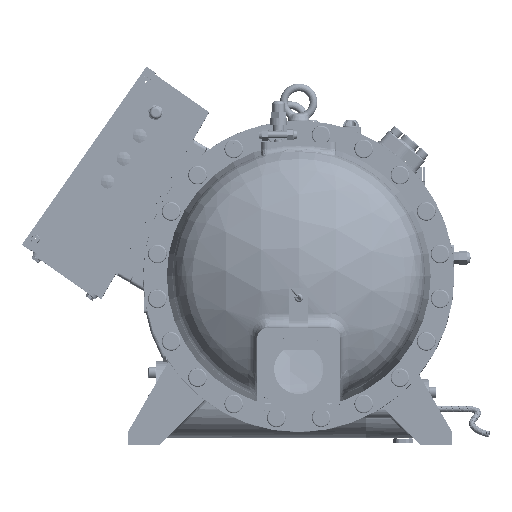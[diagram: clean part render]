
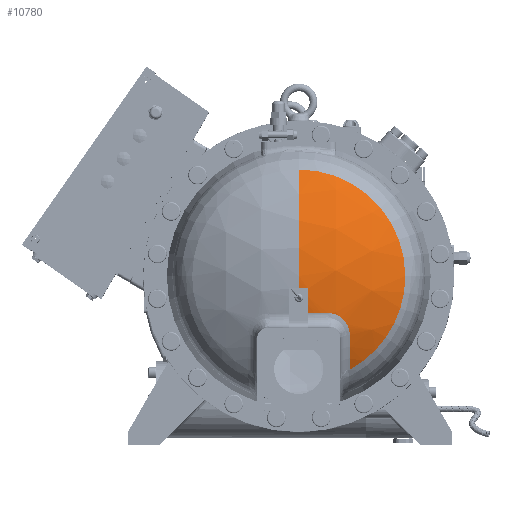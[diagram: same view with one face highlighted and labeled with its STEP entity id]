
A CAD part, top view. The second image highlights one B-rep face of the part: STEP entity #10780.
In plain terms, the highlighted spherical face has radius 319 mm.
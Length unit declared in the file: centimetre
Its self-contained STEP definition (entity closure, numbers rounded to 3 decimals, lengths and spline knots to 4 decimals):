
#948 = DIRECTION ( 'NONE',  ( 0., 1., 0. ) ) ;
#973 = DIRECTION ( 'NONE',  ( 1., 0., 0. ) ) ;
#1463 = CARTESIAN_POINT ( 'NONE',  ( 1.4, 1.4, 5.25 ) ) ;
#1548 = CARTESIAN_POINT ( 'NONE',  ( 9.5867, -13.6402, 32.1643 ) ) ;
#4963 = DIRECTION ( 'NONE',  ( 0., 0., 1. ) ) ;
#7860 = CIRCLE ( 'NONE', #55956, 30.8316 ) ;
#8826 = CARTESIAN_POINT ( 'NONE',  ( 7.9558, -5.0799, 35.7894 ) ) ;
#8845 = AXIS2_PLACEMENT_3D ( 'NONE', #102940, #104107, #102797 ) ;
#9284 = CARTESIAN_POINT ( 'NONE',  ( 9.4043, -6.9358, 34.9831 ) ) ;
#10000 = ORIENTED_EDGE ( 'NONE', *, *, #14995, .T. ) ;
#10780 = ADVANCED_FACE ( 'NONE', ( #66243 ), #88763, .T. ) ;
#11768 = DIRECTION ( 'NONE',  ( -1., 0., 0. ) ) ;
#11947 = CARTESIAN_POINT ( 'NONE',  ( 2.9, -0.6, 37.0519 ) ) ;
#14995 = EDGE_CURVE ( 'NONE', #71493, #64363, #62162, .T. ) ;
#18592 = AXIS2_PLACEMENT_3D ( 'NONE', #118817, #52209, #129977 ) ;
#19979 = CARTESIAN_POINT ( 'NONE',  ( 8.4162, -5.422, 35.6128 ) ) ;
#20472 = CARTESIAN_POINT ( 'NONE',  ( 9.4711, -7.1538, 34.9032 ) ) ;
#25926 = CARTESIAN_POINT ( 'NONE',  ( 6.058, -4.5283, 36.2463 ) ) ;
#27660 = EDGE_CURVE ( 'NONE', #116915, #55239, #34255, .T. ) ;
#28544 = DIRECTION ( 'NONE',  ( 0., 0., -1. ) ) ;
#28614 = CIRCLE ( 'NONE', #54013, 31.9 ) ;
#30712 = CARTESIAN_POINT ( 'NONE',  ( 6.4769, -4.5528, 36.1758 ) ) ;
#31192 = CARTESIAN_POINT ( 'NONE',  ( 8.656, -5.6685, 35.499 ) ) ;
#31665 = CARTESIAN_POINT ( 'NONE',  ( 9.5641, -7.5982, 34.7466 ) ) ;
#33793 = ORIENTED_EDGE ( 'NONE', *, *, #122889, .F. ) ;
#34255 = CIRCLE ( 'NONE', #99002, 31.8372 ) ;
#34784 = ORIENTED_EDGE ( 'NONE', *, *, #67599, .F. ) ;
#35189 = ORIENTED_EDGE ( 'NONE', *, *, #27660, .T. ) ;
#37674 = EDGE_CURVE ( 'NONE', #55239, #71493, #94809, .T. ) ;
#39542 = ORIENTED_EDGE ( 'NONE', *, *, #46543, .T. ) ;
#40548 = CARTESIAN_POINT ( 'NONE',  ( 6.1785, -4.5283, 36.2281 ) ) ;
#40582 = DIRECTION ( 'NONE',  ( 0., 0., 1. ) ) ;
#40754 = DIRECTION ( 'NONE',  ( 1., 0., 0. ) ) ;
#40870 = CARTESIAN_POINT ( 'NONE',  ( 2.9, 1.4, 5.25 ) ) ;
#41388 = DIRECTION ( 'NONE',  ( -1., 0., 0. ) ) ;
#41416 = DIRECTION ( 'NONE',  ( 0., 1., 0. ) ) ;
#41580 = CARTESIAN_POINT ( 'NONE',  ( 1.4, -4.5283, 5.25 ) ) ;
#41981 = CARTESIAN_POINT ( 'NONE',  ( 6.6544, -4.5786, 36.1411 ) ) ;
#42448 = CARTESIAN_POINT ( 'NONE',  ( 8.7699, -5.7985, 35.4407 ) ) ;
#42941 = CARTESIAN_POINT ( 'NONE',  ( 9.5867, -8.0571, 34.5954 ) ) ;
#43659 = VERTEX_POINT ( 'NONE', #78327 ) ;
#45448 = ORIENTED_EDGE ( 'NONE', *, *, #128361, .T. ) ;
#46543 = EDGE_CURVE ( 'NONE', #139287, #116915, #110462, .T. ) ;
#52209 = DIRECTION ( 'NONE',  ( 0., 0., -1. ) ) ;
#53288 = CARTESIAN_POINT ( 'NONE',  ( 7.0022, -4.6488, 36.0671 ) ) ;
#53769 = CARTESIAN_POINT ( 'NONE',  ( 8.9448, -6.0246, 35.3428 ) ) ;
#54013 = AXIS2_PLACEMENT_3D ( 'NONE', #78387, #11768, #89615 ) ;
#55239 = VERTEX_POINT ( 'NONE', #11947 ) ;
#55956 = AXIS2_PLACEMENT_3D ( 'NONE', #138338, #71588, #4963 ) ;
#62162 = CIRCLE ( 'NONE', #118488, 31.3443 ) ;
#64363 = VERTEX_POINT ( 'NONE', #25926 ) ;
#64403 = CARTESIAN_POINT ( 'NONE',  ( 7.5463, -4.8554, 35.9211 ) ) ;
#64871 = CARTESIAN_POINT ( 'NONE',  ( 9.2376, -6.5096, 35.1445 ) ) ;
#66243 = FACE_OUTER_BOUND ( 'NONE', #134546, .T. ) ;
#67007 = CARTESIAN_POINT ( 'NONE',  ( 18.5239, 1.4, 32.1643 ) ) ;
#67283 = CARTESIAN_POINT ( 'NONE',  ( 9.5867, -8.0571, 34.5954 ) ) ;
#67599 = EDGE_CURVE ( 'NONE', #43659, #83372, #102818, .T. ) ;
#71493 = VERTEX_POINT ( 'NONE', #116493 ) ;
#71588 = DIRECTION ( 'NONE',  ( 1., 0., 0. ) ) ;
#74484 = EDGE_CURVE ( 'NONE', #139287, #43659, #28614, .T. ) ;
#74922 = CARTESIAN_POINT ( 'NONE',  ( 6.058, -4.5283, 36.2463 ) ) ;
#75391 = CARTESIAN_POINT ( 'NONE',  ( 7.857, -5.0191, 35.8233 ) ) ;
#75865 = CARTESIAN_POINT ( 'NONE',  ( 9.3662, -6.8278, 35.0234 ) ) ;
#78327 = CARTESIAN_POINT ( 'NONE',  ( 1.4, 18.5239, 32.1643 ) ) ;
#78387 = CARTESIAN_POINT ( 'NONE',  ( 1.4, 1.4, 5.25 ) ) ;
#79822 = VERTEX_POINT ( 'NONE', #67283 ) ;
#79903 = VERTEX_POINT ( 'NONE', #1548 ) ;
#80644 = ORIENTED_EDGE ( 'NONE', *, *, #74484, .F. ) ;
#82462 = AXIS2_PLACEMENT_3D ( 'NONE', #1463, #973, #948 ) ;
#83372 = VERTEX_POINT ( 'NONE', #67007 ) ;
#86644 = CARTESIAN_POINT ( 'NONE',  ( 8.241, -5.2751, 35.6854 ) ) ;
#87115 = CARTESIAN_POINT ( 'NONE',  ( 9.422, -6.9901, 34.9631 ) ) ;
#88763 = SPHERICAL_SURFACE ( 'NONE', #82462, 31.9 ) ;
#89615 = DIRECTION ( 'NONE',  ( 0., 0., 1. ) ) ;
#94115 = ORIENTED_EDGE ( 'NONE', *, *, #109216, .T. ) ;
#94341 = B_SPLINE_CURVE_WITH_KNOTS ( 'NONE', 3,
 ( #74922, #40548, #97409, #30712, #108758, #41981, #119900, #53288, #131047, #64403, #142184, #75391, #8826, #86644, #19979, #97894, #31192, #109245, #42448, #120366, #53769, #131527, #64871, #142652, #75865, #9284, #87115, #20472, #98387, #31665, #109730, #42941 ),
 .UNSPECIFIED., .F., .F.,
 ( 4, 2, 2, 2, 2, 2, 2, 2, 2, 2, 2, 2, 2, 2, 2, 4 ),
 ( 0., 0.0036, 0.0055, 0.0073, 0.0146, 0.0182, 0.0219, 0.0292, 0.031, 0.0328, 0.0365, 0.0438, 0.0456, 0.0474, 0.0511, 0.0584 ),
 .UNSPECIFIED. ) ;
#94809 = CIRCLE ( 'NONE', #136884, 31.8647 ) ;
#95204 = CARTESIAN_POINT ( 'NONE',  ( 1.4, 1.4, 32.1643 ) ) ;
#97409 = CARTESIAN_POINT ( 'NONE',  ( 6.2983, -4.5345, 36.2083 ) ) ;
#97673 = DIRECTION ( 'NONE',  ( 1., 0., 0. ) ) ;
#97894 = CARTESIAN_POINT ( 'NONE',  ( 8.6168, -5.6265, 35.5181 ) ) ;
#97959 = DIRECTION ( 'NONE',  ( 0., 1., 0. ) ) ;
#98387 = CARTESIAN_POINT ( 'NONE',  ( 9.4983, -7.2641, 34.8638 ) ) ;
#99002 = AXIS2_PLACEMENT_3D ( 'NONE', #99600, #97959, #97673 ) ;
#99600 = CARTESIAN_POINT ( 'NONE',  ( 1.4, -0.6, 5.25 ) ) ;
#102797 = DIRECTION ( 'NONE',  ( 0., 0., -1. ) ) ;
#102818 = CIRCLE ( 'NONE', #18592, 17.1239 ) ;
#102940 = CARTESIAN_POINT ( 'NONE',  ( 1.4, 1.4, 5.25 ) ) ;
#104107 = DIRECTION ( 'NONE',  ( 1., 0., 0. ) ) ;
#106628 = DIRECTION ( 'NONE',  ( -1., 0., 0. ) ) ;
#108758 = CARTESIAN_POINT ( 'NONE',  ( 6.5364, -4.5604, 36.1645 ) ) ;
#109216 = EDGE_CURVE ( 'NONE', #64363, #79822, #94341, .T. ) ;
#109245 = CARTESIAN_POINT ( 'NONE',  ( 8.7326, -5.7545, 35.4603 ) ) ;
#109730 = CARTESIAN_POINT ( 'NONE',  ( 9.5867, -7.8253, 34.6701 ) ) ;
#110462 = CIRCLE ( 'NONE', #8845, 31.9 ) ;
#111862 = ORIENTED_EDGE ( 'NONE', *, *, #37674, .T. ) ;
#113007 = CARTESIAN_POINT ( 'NONE',  ( 1.4, 1.4, 37.15 ) ) ;
#113373 = AXIS2_PLACEMENT_3D ( 'NONE', #95204, #28544, #106628 ) ;
#116493 = CARTESIAN_POINT ( 'NONE',  ( 2.9, -4.5283, 36.5584 ) ) ;
#116915 = VERTEX_POINT ( 'NONE', #120930 ) ;
#118488 = AXIS2_PLACEMENT_3D ( 'NONE', #41580, #41416, #41388 ) ;
#118817 = CARTESIAN_POINT ( 'NONE',  ( 1.4, 1.4, 32.1643 ) ) ;
#119900 = CARTESIAN_POINT ( 'NONE',  ( 6.7128, -4.5891, 36.1291 ) ) ;
#120366 = CARTESIAN_POINT ( 'NONE',  ( 8.8778, -5.9325, 35.3821 ) ) ;
#120930 = CARTESIAN_POINT ( 'NONE',  ( 1.4, -0.6, 37.0872 ) ) ;
#122889 = EDGE_CURVE ( 'NONE', #83372, #79903, #123812, .T. ) ;
#123812 = CIRCLE ( 'NONE', #113373, 17.1239 ) ;
#128361 = EDGE_CURVE ( 'NONE', #79822, #79903, #7860, .T. ) ;
#129977 = DIRECTION ( 'NONE',  ( -1., 0., 0. ) ) ;
#131047 = CARTESIAN_POINT ( 'NONE',  ( 7.2249, -4.7187, 36.012 ) ) ;
#131527 = CARTESIAN_POINT ( 'NONE',  ( 9.1318, -6.3091, 35.2243 ) ) ;
#134546 = EDGE_LOOP ( 'NONE', ( #80644, #39542, #35189, #111862, #10000, #94115, #45448, #33793, #34784 ) ) ;
#136884 = AXIS2_PLACEMENT_3D ( 'NONE', #40870, #40754, #40582 ) ;
#138338 = CARTESIAN_POINT ( 'NONE',  ( 9.5867, 1.4, 5.25 ) ) ;
#139287 = VERTEX_POINT ( 'NONE', #113007 ) ;
#142184 = CARTESIAN_POINT ( 'NONE',  ( 7.6515, -4.9064, 35.8894 ) ) ;
#142652 = CARTESIAN_POINT ( 'NONE',  ( 9.3457, -6.7741, 35.0437 ) ) ;
